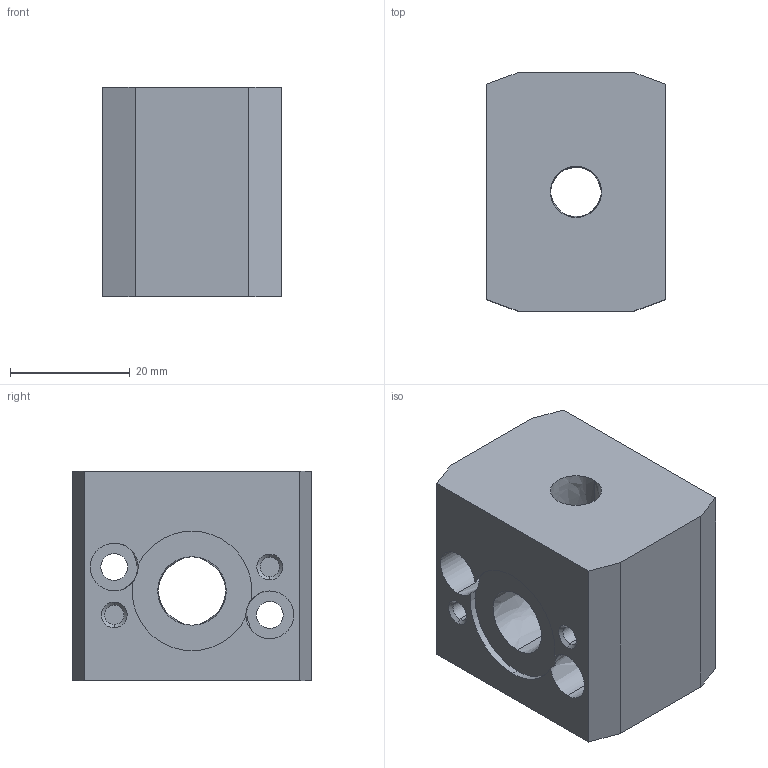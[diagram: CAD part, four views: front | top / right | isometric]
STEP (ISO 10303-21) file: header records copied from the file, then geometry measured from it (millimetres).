
FILE_DESCRIPTION((''),'2;1');
FILE_NAME('I:\DOC-EDP\Lib-3d\FRL\17140.stp','2003-06-16T14:53:37',('maffial1'),(''),'Autodesk Inventor 7','Autodesk Inventor 7','');
FILE_SCHEMA(('AUTOMOTIVE_DESIGN { 1 0 10303 214 1 1 1 1 }'));
Length unit declared in the file: millimetre
Products named in the file (1): 17140
Bounding box: 30 x 40 x 35 mm (x, y, z)
Volume: 34500.9 mm3; surface area: 9720.4 mm2
Topology: 1 solids, 1 shells, 54 faces, 134 edges, 86 vertices
Faces by surface type: bspline 31, plane 13, cylinder 6, cone 4
Entity records: 2077 total; most frequent: CARTESIAN_POINT 818, ORIENTED_EDGE 268, DIRECTION 240, EDGE_CURVE 134, AXIS2_PLACEMENT_3D 88, VERTEX_POINT 86, EDGE_LOOP 68, VECTOR 64
